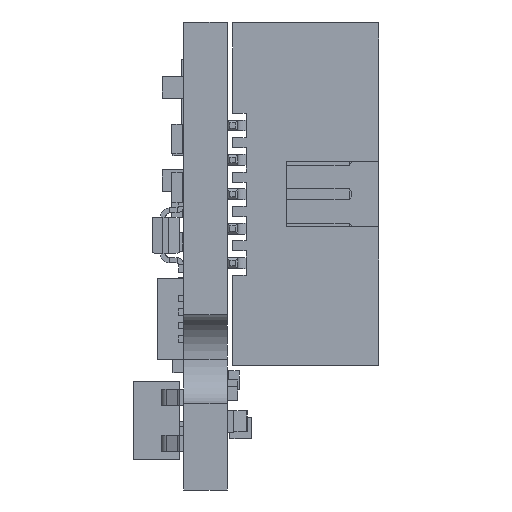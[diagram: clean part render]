
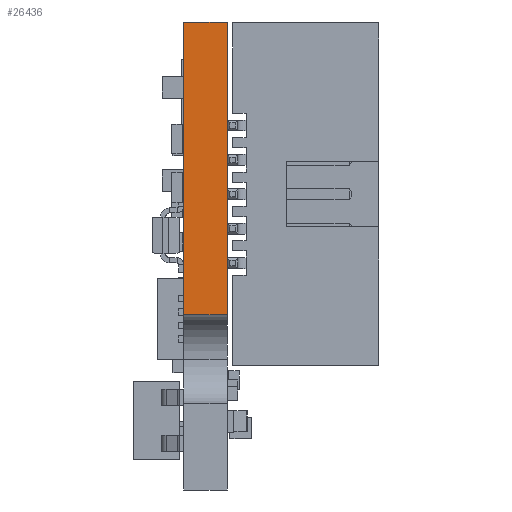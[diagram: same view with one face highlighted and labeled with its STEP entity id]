
A CAD part, left-side view. The second image highlights one B-rep face of the part: STEP entity #26436.
In plain terms, the highlighted planar face has unit normal (-1, 0, 0).
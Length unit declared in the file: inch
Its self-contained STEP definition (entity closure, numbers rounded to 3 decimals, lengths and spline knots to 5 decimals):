
#520 = ORIENTED_EDGE ( 'NONE', *, *, #32141, .T. ) ;
#911 = DIRECTION ( 'NONE',  ( 0., -1., 0. ) ) ;
#2027 = ORIENTED_EDGE ( 'NONE', *, *, #36158, .F. ) ;
#3678 = PLANE ( 'NONE',  #32462 ) ;
#3867 = DIRECTION ( 'NONE',  ( 0., -1., 0. ) ) ;
#4619 = EDGE_LOOP ( 'NONE', ( #520, #34759, #2027, #32115 ) ) ;
#8407 = LINE ( 'NONE', #41886, #19936 ) ;
#8677 = LINE ( 'NONE', #25600, #31705 ) ;
#10340 = CARTESIAN_POINT ( 'NONE',  ( -0.6, 0., 0.34 ) ) ;
#10459 = CARTESIAN_POINT ( 'NONE',  ( -0.6, 0., -0.085 ) ) ;
#11657 = DIRECTION ( 'NONE',  ( 0., 0., 1. ) ) ;
#15730 = CARTESIAN_POINT ( 'NONE',  ( -0.6, 0., -0.085 ) ) ;
#19068 = VECTOR ( 'NONE', #32015, 39.37008 ) ;
#19936 = VECTOR ( 'NONE', #11657, 39.37008 ) ;
#21156 = CARTESIAN_POINT ( 'NONE',  ( -0.6, 0.06299, 0.34 ) ) ;
#22127 = VECTOR ( 'NONE', #911, 39.37008 ) ;
#24069 = VERTEX_POINT ( 'NONE', #21156 ) ;
#25600 = CARTESIAN_POINT ( 'NONE',  ( -0.6, 0.06299, 0.34 ) ) ;
#26436 = ADVANCED_FACE ( 'NONE', ( #41868 ), #3678, .F. ) ;
#26891 = CARTESIAN_POINT ( 'NONE',  ( -0.6, 0.06299, -0.085 ) ) ;
#29823 = DIRECTION ( 'NONE',  ( 1., 0., 0. ) ) ;
#31506 = VERTEX_POINT ( 'NONE', #10340 ) ;
#31705 = VECTOR ( 'NONE', #51325, 39.37008 ) ;
#32015 = DIRECTION ( 'NONE',  ( 0., 0., 1. ) ) ;
#32115 = ORIENTED_EDGE ( 'NONE', *, *, #49675, .T. ) ;
#32141 = EDGE_CURVE ( 'NONE', #40321, #31506, #53574, .T. ) ;
#32462 = AXIS2_PLACEMENT_3D ( 'NONE', #55759, #29823, #3867 ) ;
#34759 = ORIENTED_EDGE ( 'NONE', *, *, #42833, .F. ) ;
#36158 = EDGE_CURVE ( 'NONE', #36635, #24069, #8407, .T. ) ;
#36635 = VERTEX_POINT ( 'NONE', #49425 ) ;
#40321 = VERTEX_POINT ( 'NONE', #15730 ) ;
#41868 = FACE_OUTER_BOUND ( 'NONE', #4619, .T. ) ;
#41886 = CARTESIAN_POINT ( 'NONE',  ( -0.6, 0.06299, -0.085 ) ) ;
#42833 = EDGE_CURVE ( 'NONE', #24069, #31506, #8677, .T. ) ;
#49425 = CARTESIAN_POINT ( 'NONE',  ( -0.6, 0.06299, -0.085 ) ) ;
#49675 = EDGE_CURVE ( 'NONE', #36635, #40321, #55328, .T. ) ;
#51325 = DIRECTION ( 'NONE',  ( 0., -1., 0. ) ) ;
#53574 = LINE ( 'NONE', #10459, #19068 ) ;
#55328 = LINE ( 'NONE', #26891, #22127 ) ;
#55759 = CARTESIAN_POINT ( 'NONE',  ( -0.6, 0.06299, -0.085 ) ) ;
